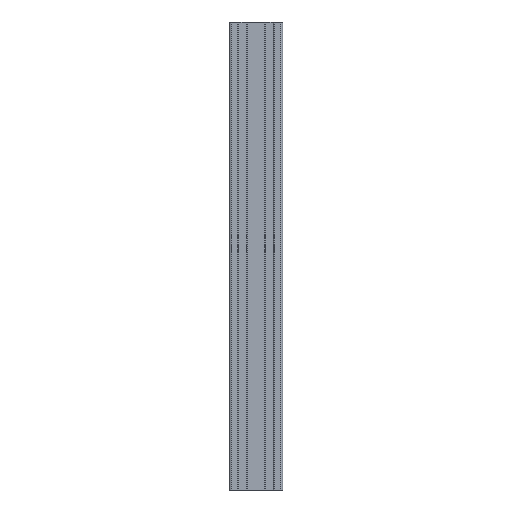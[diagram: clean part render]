
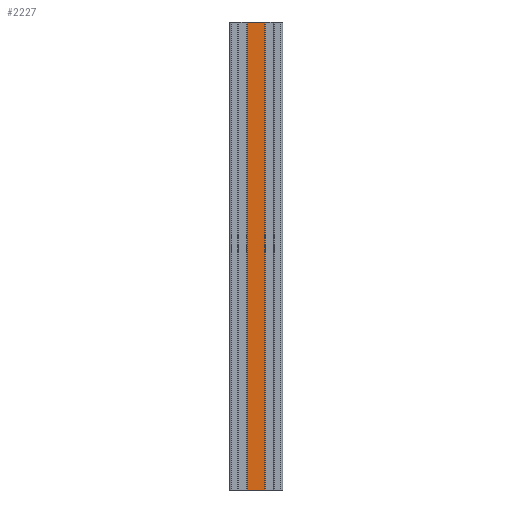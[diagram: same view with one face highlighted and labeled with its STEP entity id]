
A CAD part, left-side view. The second image highlights one B-rep face of the part: STEP entity #2227.
In plain terms, the highlighted planar face has unit normal (-1, 0, 0).
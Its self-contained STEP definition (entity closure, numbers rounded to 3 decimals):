
#125=FACE_OUTER_BOUND('',#236,.T.);
#236=EDGE_LOOP('',(#1849,#1850,#1851,#1852));
#281=LINE('',#2976,#587);
#294=LINE('',#3005,#600);
#402=LINE('',#3225,#708);
#532=LINE('',#3498,#838);
#587=VECTOR('',#2417,10.);
#600=VECTOR('',#2438,10.);
#708=VECTOR('',#2600,10.);
#838=VECTOR('',#2852,1000.);
#889=VERTEX_POINT('',#2972);
#890=VERTEX_POINT('',#2974);
#901=VERTEX_POINT('',#3002);
#902=VERTEX_POINT('',#3004);
#1105=EDGE_CURVE('',#889,#890,#281,.T.);
#1118=EDGE_CURVE('',#902,#901,#294,.T.);
#1228=EDGE_CURVE('',#901,#889,#402,.T.);
#1367=EDGE_CURVE('',#902,#890,#532,.T.);
#1849=ORIENTED_EDGE('',*,*,#1105,.T.);
#1850=ORIENTED_EDGE('',*,*,#1367,.F.);
#1851=ORIENTED_EDGE('',*,*,#1118,.T.);
#1852=ORIENTED_EDGE('',*,*,#1228,.T.);
#2120=PLANE('',#2360);
#2227=ADVANCED_FACE('',(#125),#2120,.T.);
#2360=AXIS2_PLACEMENT_3D('',#3497,#2850,#2851);
#2417=DIRECTION('',(0.,0.,-1.));
#2438=DIRECTION('',(0.,0.,1.));
#2600=DIRECTION('',(0.,1.,0.));
#2850=DIRECTION('center_axis',(-1.,0.,0.));
#2851=DIRECTION('ref_axis',(0.,0.,1.));
#2852=DIRECTION('',(0.,1.,0.));
#2972=CARTESIAN_POINT('',(-10.,-3.5,140.));
#2974=CARTESIAN_POINT('',(-10.,-3.5,-210.));
#2976=CARTESIAN_POINT('',(-10.,-3.5,105.));
#3002=CARTESIAN_POINT('',(-10.,-16.5,140.));
#3004=CARTESIAN_POINT('',(-10.,-16.5,-210.));
#3005=CARTESIAN_POINT('',(-10.,-16.5,105.));
#3225=CARTESIAN_POINT('',(-10.,0.,140.));
#3497=CARTESIAN_POINT('Origin',(-10.,0.,210.));
#3498=CARTESIAN_POINT('',(-10.,0.,-210.));
